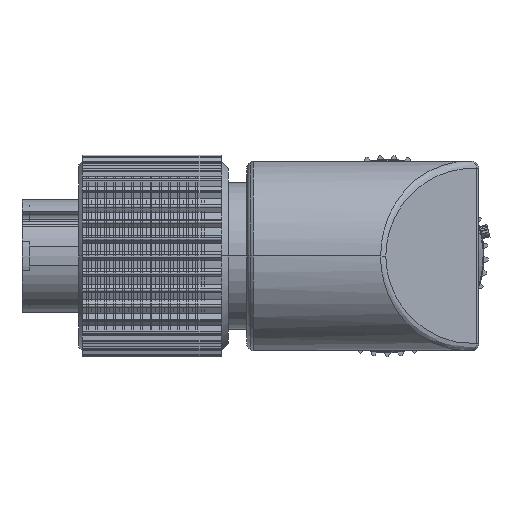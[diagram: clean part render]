
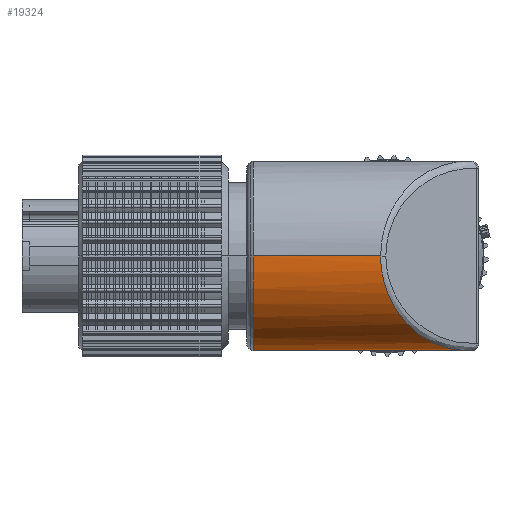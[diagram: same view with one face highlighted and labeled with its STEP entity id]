
A CAD part, front view. The second image highlights one B-rep face of the part: STEP entity #19324.
In plain terms, the highlighted cylindrical face has radius 6.604 mm (diameter 13.208 mm), a partial arc.
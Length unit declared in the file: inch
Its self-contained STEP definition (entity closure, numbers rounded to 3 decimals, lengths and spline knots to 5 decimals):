
#3265=CARTESIAN_POINT('',(0.76507,0.26,0.));
#3303=CARTESIAN_POINT('',(0.76507,0.26,0.));
#3304=CARTESIAN_POINT('',(0.76507,0.26,-0.0095));
#3305=CARTESIAN_POINT('',(0.76618,0.25895,
-0.02851));
#3306=CARTESIAN_POINT('',(0.771,0.25435,
-0.05633));
#3307=CARTESIAN_POINT('',(0.7792,0.24656,
-0.08428));
#3308=CARTESIAN_POINT('',(0.79137,0.23505,
-0.11265));
#3309=CARTESIAN_POINT('',(0.80824,0.21921,
-0.14108));
#3310=CARTESIAN_POINT('',(0.82873,0.20019,
-0.16688));
#3311=CARTESIAN_POINT('',(0.85119,0.17977,
-0.18851));
#3312=CARTESIAN_POINT('',(0.87252,0.16091,
-0.20463));
#3313=CARTESIAN_POINT('',(0.89228,0.14413,
-0.21668));
#3314=CARTESIAN_POINT('',(0.91104,0.12905,
-0.22591));
#3315=CARTESIAN_POINT('',(0.92888,0.11584,
-0.2329));
#3316=CARTESIAN_POINT('',(0.94602,0.10465,
-0.23809));
#3317=CARTESIAN_POINT('',(0.96214,0.09603,
-0.24166));
#3318=CARTESIAN_POINT('',(0.97735,0.09018,
-0.24387));
#3319=CARTESIAN_POINT('',(0.99196,0.08716,-0.24496));
#3320=CARTESIAN_POINT('',(1.0063,0.08697,
-0.24502));
#3321=CARTESIAN_POINT('',(1.02134,0.08975,
-0.24403));
#3322=CARTESIAN_POINT('',(1.03741,0.09576,
-0.24177));
#3323=CARTESIAN_POINT('',(1.05473,0.10506,
-0.23792));
#3324=CARTESIAN_POINT('',(1.07254,0.11682,
-0.23242));
#3325=CARTESIAN_POINT('',(1.09124,0.13081,
-0.22492));
#3326=CARTESIAN_POINT('',(1.11098,0.14683,
-0.2149));
#3327=CARTESIAN_POINT('',(1.13205,0.16489,
-0.20151));
#3328=CARTESIAN_POINT('',(1.1543,0.18471,
-0.18376));
#3329=CARTESIAN_POINT('',(1.17703,0.20551,
-0.16036));
#3330=CARTESIAN_POINT('',(1.19664,0.22377,
-0.13368));
#3331=CARTESIAN_POINT('',(1.21204,0.23827,
-0.10561));
#3332=CARTESIAN_POINT('',(1.22333,0.24896,
-0.07691));
#3333=CARTESIAN_POINT('',(1.22815,0.25355,
-0.0583));
#3334=CARTESIAN_POINT('',(1.23,0.25531,-0.04918));
#3344=DIRECTION('',(-1.,0.,0.));
#3345=VECTOR('',#3344,0.13275);
#3346=CARTESIAN_POINT('',(0.76507,0.26,0.));
#3347=LINE('',#3346,#3345);
#3348=CARTESIAN_POINT('',(0.63232,0.,0.));
#3349=DIRECTION('',(-1.,0.,0.));
#3350=DIRECTION('',(0.,1.,0.));
#3351=AXIS2_PLACEMENT_3D('',#3348,#3349,#3350);
#3353=DIRECTION('',(1.,0.,0.));
#3354=VECTOR('',#3353,0.3494);
#3355=CARTESIAN_POINT('',(0.63232,-0.26,0.));
#3356=LINE('',#3355,#3354);
#3357=CARTESIAN_POINT('',(1.23,0.00897,
-0.25985));
#3358=CARTESIAN_POINT('',(1.20933,-0.01287,
-0.2606));
#3359=CARTESIAN_POINT('',(1.16858,-0.05782,
-0.25658));
#3360=CARTESIAN_POINT('',(1.10645,-0.1248,
-0.23212));
#3361=CARTESIAN_POINT('',(1.05176,-0.18414,
-0.18763));
#3362=CARTESIAN_POINT('',(1.01935,-0.21923,
-0.14249));
#3363=CARTESIAN_POINT('',(0.99941,-0.24084,
-0.10187));
#3364=CARTESIAN_POINT('',(0.98483,-0.25658,
-0.05199));
#3365=CARTESIAN_POINT('',(0.98181,-0.26,
-0.01752));
#3366=CARTESIAN_POINT('',(0.98172,-0.26,
0.));
#3402=CARTESIAN_POINT('',(1.23,0.,0.));
#3403=DIRECTION('',(-1.,0.,0.));
#3404=DIRECTION('',(0.,0.982,-0.189));
#3405=AXIS2_PLACEMENT_3D('',#3402,#3403,#3404);
#3436=CARTESIAN_POINT('',(0.98172,-0.26,
0.));
#12529=CARTESIAN_POINT('',(0.63232,-0.26,0.));
#12530=VERTEX_POINT('',#12529);
#12531=CARTESIAN_POINT('',(0.63232,0.26,0.));
#12532=VERTEX_POINT('',#12531);
#12533=VERTEX_POINT('',#3265);
#12537=VERTEX_POINT('',#3436);
#12544=VERTEX_POINT('',#3334);
#12545=VERTEX_POINT('',#3357);
#19309=CARTESIAN_POINT('',(0.62037,0.,0.));
#19310=DIRECTION('',(1.,0.,0.));
#19311=DIRECTION('',(0.,-1.,0.));
#19312=AXIS2_PLACEMENT_3D('',#19309,#19310,#19311);
#19313=CYLINDRICAL_SURFACE('',#19312,0.26);
#19314=ORIENTED_EDGE('',*,*,#19290,.F.);
#19315=ORIENTED_EDGE('',*,*,#19255,.T.);
#19316=ORIENTED_EDGE('',*,*,#19221,.T.);
#19317=ORIENTED_EDGE('',*,*,#19252,.T.);
#19319=ORIENTED_EDGE('',*,*,#19318,.F.);
#19321=ORIENTED_EDGE('',*,*,#19320,.F.);
#19322=EDGE_LOOP('',(#19314,#19315,#19316,#19317,#19319,#19321));
#19323=FACE_OUTER_BOUND('',#19322,.F.);
#19324=ADVANCED_FACE('',(#19323),#19313,.T.);
#3335=B_SPLINE_CURVE_WITH_KNOTS('',3,(#3303,#3304,#3305,#3306,#3307,#3308,#3309,
#3310,#3311,#3312,#3313,#3314,#3315,#3316,#3317,#3318,#3319,#3320,#3321,#3322,
#3323,#3324,#3325,#3326,#3327,#3328,#3329,#3330,#3331,#3332,#3333,#3334),
.UNSPECIFIED.,.F.,.F.,(4,1,1,1,1,1,1,1,1,1,1,1,1,1,1,1,1,1,1,1,1,1,1,1,1,1,1,1,
1,4),(0.,0.03448,0.06897,0.10345,
0.13793,0.17241,0.2069,0.24138,
0.27586,0.31034,0.34483,0.37931,
0.41379,0.44828,0.48276,0.51724,
0.55172,0.58621,0.62069,0.65517,
0.68966,0.72414,0.75862,0.7931,
0.82759,0.86207,0.89655,0.93103,
0.96552,1.),.UNSPECIFIED.);
#3352=CIRCLE('',#3351,0.26);
#3367=B_SPLINE_CURVE_WITH_KNOTS('',3,(#3357,#3358,#3359,#3360,#3361,#3362,#3363,
#3364,#3365,#3366),.UNSPECIFIED.,.F.,.F.,(4,1,1,1,1,1,1,4),(0.,
0.14286,0.28571,0.42857,0.57143,
0.71429,0.85714,1.),.UNSPECIFIED.);
#3406=CIRCLE('',#3405,0.26);
#19221=EDGE_CURVE('',#12532,#12530,#3352,.T.);
#19252=EDGE_CURVE('',#12530,#12537,#3356,.T.);
#19255=EDGE_CURVE('',#12533,#12532,#3347,.T.);
#19290=EDGE_CURVE('',#12533,#12544,#3335,.T.);
#19318=EDGE_CURVE('',#12545,#12537,#3367,.T.);
#19320=EDGE_CURVE('',#12544,#12545,#3406,.T.);
